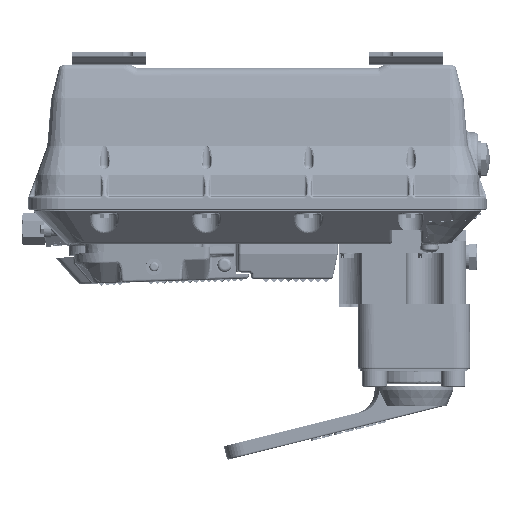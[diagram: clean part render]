
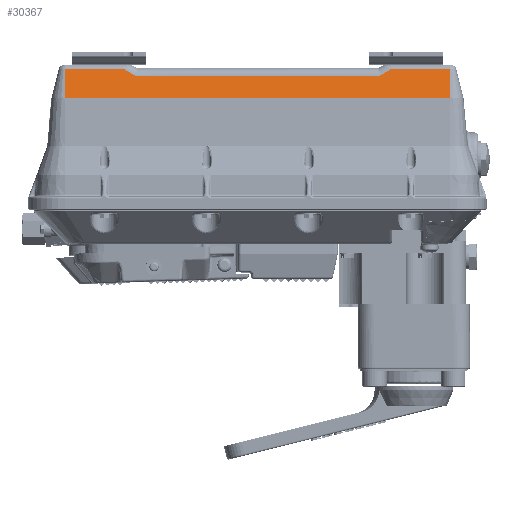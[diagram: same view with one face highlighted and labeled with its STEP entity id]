
A CAD part, top view. The second image highlights one B-rep face of the part: STEP entity #30367.
In plain terms, the highlighted planar face has unit normal (0, 0.242, 0.97).
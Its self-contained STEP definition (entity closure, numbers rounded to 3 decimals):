
#5249=CARTESIAN_POINT('',(-6.043,4.158,2.477));
#5270=DIRECTION('',(-1.,0.,0.));
#5271=VECTOR('',#5270,6.587);
#5272=CARTESIAN_POINT('',(0.544,4.158,2.476));
#5273=LINE('',#5272,#5271);
#5412=DIRECTION('',(0.,0.97,-0.242));
#5413=VECTOR('',#5412,0.805);
#5414=CARTESIAN_POINT('',(2.426,3.547,2.628));
#5415=LINE('',#5414,#5413);
#5416=DIRECTION('',(0.859,0.496,-0.124));
#5417=VECTOR('',#5416,0.342);
#5418=CARTESIAN_POINT('',(0.544,4.158,2.476));
#5419=LINE('',#5418,#5417);
#5420=DIRECTION('',(1.,0.,0.));
#5421=VECTOR('',#5420,1.588);
#5422=CARTESIAN_POINT('',(0.838,4.328,2.433));
#5423=LINE('',#5422,#5421);
#5424=DIRECTION('',(-1.,0.,0.));
#5425=VECTOR('',#5424,10.35);
#5426=CARTESIAN_POINT('',(2.426,3.547,2.628));
#5427=LINE('',#5426,#5425);
#5428=DIRECTION('',(1.,0.,0.));
#5429=VECTOR('',#5428,1.588);
#5430=CARTESIAN_POINT('',(-7.924,4.328,2.435));
#5431=LINE('',#5430,#5429);
#5432=DIRECTION('',(0.859,-0.496,0.124));
#5433=VECTOR('',#5432,0.342);
#5434=CARTESIAN_POINT('',(-6.336,4.328,2.435));
#5435=LINE('',#5434,#5433);
#5450=CARTESIAN_POINT('',(0.544,4.158,2.476));
#5671=DIRECTION('',(0.,-0.97,0.242));
#5672=VECTOR('',#5671,0.805);
#5673=CARTESIAN_POINT('',(-7.924,4.328,2.435));
#5674=LINE('',#5673,#5672);
#17351=CARTESIAN_POINT('',(2.426,3.547,2.628));
#17353=VERTEX_POINT('',#17351);
#17354=CARTESIAN_POINT('',(-7.924,3.547,2.63));
#17356=VERTEX_POINT('',#17354);
#17424=VERTEX_POINT('',#5249);
#17426=VERTEX_POINT('',#5450);
#17517=CARTESIAN_POINT('',(-7.924,4.328,
2.435));
#17518=CARTESIAN_POINT('',(-6.336,4.328,
2.435));
#17519=VERTEX_POINT('',#17517);
#17520=VERTEX_POINT('',#17518);
#17521=CARTESIAN_POINT('',(0.838,4.328,
2.433));
#17522=VERTEX_POINT('',#17521);
#17523=CARTESIAN_POINT('',(2.426,4.328,2.433));
#17524=VERTEX_POINT('',#17523);
#30347=CARTESIAN_POINT('',(-7.924,4.457,2.403));
#30348=DIRECTION('',(0.,0.242,0.97));
#30349=DIRECTION('',(0.,-0.97,0.242));
#30350=AXIS2_PLACEMENT_3D('',#30347,#30348,#30349);
#30351=PLANE('',#30350);
#30352=ORIENTED_EDGE('',*,*,#29891,.F.);
#30354=ORIENTED_EDGE('',*,*,#30353,.T.);
#30356=ORIENTED_EDGE('',*,*,#30355,.T.);
#30357=ORIENTED_EDGE('',*,*,#30342,.F.);
#30358=ORIENTED_EDGE('',*,*,#29249,.T.);
#30360=ORIENTED_EDGE('',*,*,#30359,.F.);
#30362=ORIENTED_EDGE('',*,*,#30361,.T.);
#30364=ORIENTED_EDGE('',*,*,#30363,.T.);
#30365=EDGE_LOOP('',(#30352,#30354,#30356,#30357,#30358,#30360,#30362,#30364));
#30366=FACE_OUTER_BOUND('',#30365,.F.);
#30367=ADVANCED_FACE('',(#30366),#30351,.T.);
#29249=EDGE_CURVE('',#17353,#17356,#5427,.T.);
#29891=EDGE_CURVE('',#17426,#17424,#5273,.T.);
#30342=EDGE_CURVE('',#17353,#17524,#5415,.T.);
#30353=EDGE_CURVE('',#17426,#17522,#5419,.T.);
#30355=EDGE_CURVE('',#17522,#17524,#5423,.T.);
#30359=EDGE_CURVE('',#17519,#17356,#5674,.T.);
#30361=EDGE_CURVE('',#17519,#17520,#5431,.T.);
#30363=EDGE_CURVE('',#17520,#17424,#5435,.T.);
